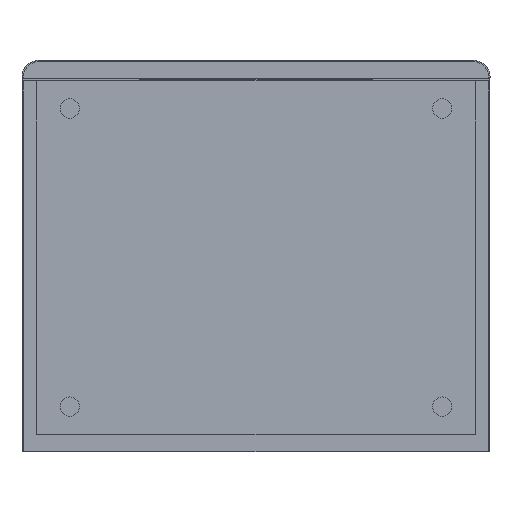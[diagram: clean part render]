
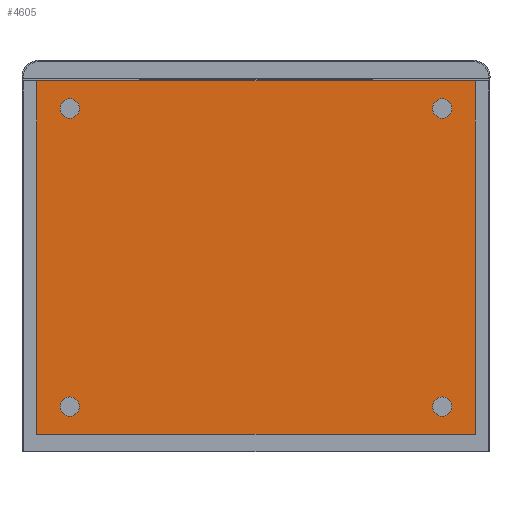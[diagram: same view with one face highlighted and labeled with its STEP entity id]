
A CAD part, front view. The second image highlights one B-rep face of the part: STEP entity #4605.
In plain terms, the highlighted planar face has unit normal (0, -1, 0).
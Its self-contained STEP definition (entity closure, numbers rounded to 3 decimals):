
#11 = CIRCLE ( 'NONE', #1059, 12.5 ) ;
#168 = VERTEX_POINT ( 'NONE', #8002 ) ;
#197 = VERTEX_POINT ( 'NONE', #2860 ) ;
#272 = DIRECTION ( 'NONE',  ( 0., 0., 1. ) ) ;
#367 = DIRECTION ( 'NONE',  ( 0., 0., -1. ) ) ;
#639 = ORIENTED_EDGE ( 'NONE', *, *, #6424, .F. ) ;
#715 = ORIENTED_EDGE ( 'NONE', *, *, #1990, .T. ) ;
#1025 = AXIS2_PLACEMENT_3D ( 'NONE', #5775, #2635, #5158 ) ;
#1059 = AXIS2_PLACEMENT_3D ( 'NONE', #5457, #4272, #7286 ) ;
#1183 = CIRCLE ( 'NONE', #7457, 12.5 ) ;
#1383 = FACE_BOUND ( 'NONE', #4209, .T. ) ;
#1669 = ORIENTED_EDGE ( 'NONE', *, *, #3028, .T. ) ;
#1736 = EDGE_CURVE ( 'NONE', #168, #5541, #3900, .T. ) ;
#1853 = EDGE_CURVE ( 'NONE', #197, #3144, #2733, .T. ) ;
#1893 = EDGE_CURVE ( 'NONE', #5541, #168, #11, .T. ) ;
#1907 = CARTESIAN_POINT ( 'NONE',  ( -282.5, -211.75, 238.75 ) ) ;
#1990 = EDGE_CURVE ( 'NONE', #3144, #2121, #5971, .T. ) ;
#2052 = AXIS2_PLACEMENT_3D ( 'NONE', #2850, #7315, #367 ) ;
#2066 = VERTEX_POINT ( 'NONE', #3603 ) ;
#2121 = VERTEX_POINT ( 'NONE', #5485 ) ;
#2145 = LINE ( 'NONE', #7022, #3521 ) ;
#2635 = DIRECTION ( 'NONE',  ( 0., -1., 0. ) ) ;
#2733 = LINE ( 'NONE', #4639, #7449 ) ;
#2850 = CARTESIAN_POINT ( 'NONE',  ( -240., -211.75, -180.75 ) ) ;
#2860 = CARTESIAN_POINT ( 'NONE',  ( 282.5, -211.75, 238.75 ) ) ;
#3028 = EDGE_CURVE ( 'NONE', #2121, #4188, #6054, .T. ) ;
#3144 = VERTEX_POINT ( 'NONE', #1907 ) ;
#3261 = PLANE ( 'NONE',  #1025 ) ;
#3317 = CARTESIAN_POINT ( 'NONE',  ( 240., -211.75, -180.75 ) ) ;
#3454 = CARTESIAN_POINT ( 'NONE',  ( 240., -211.75, -168.25 ) ) ;
#3519 = CARTESIAN_POINT ( 'NONE',  ( -240., -211.75, -180.75 ) ) ;
#3521 = VECTOR ( 'NONE', #272, 1000. ) ;
#3603 = CARTESIAN_POINT ( 'NONE',  ( -240., -211.75, -168.25 ) ) ;
#3900 = CIRCLE ( 'NONE', #7422, 12.5 ) ;
#4188 = VERTEX_POINT ( 'NONE', #4323 ) ;
#4209 = EDGE_LOOP ( 'NONE', ( #4774, #639 ) ) ;
#4272 = DIRECTION ( 'NONE',  ( 0., -1., 0. ) ) ;
#4323 = CARTESIAN_POINT ( 'NONE',  ( 282.5, -211.75, -216.25 ) ) ;
#4519 = EDGE_LOOP ( 'NONE', ( #715, #1669, #8048, #4718 ) ) ;
#4541 = DIRECTION ( 'NONE',  ( 0., 0., -1. ) ) ;
#4605 = ADVANCED_FACE ( 'NONE', ( #6996, #1383, #6377 ), #3261, .T. ) ;
#4639 = CARTESIAN_POINT ( 'NONE',  ( -282.5, -211.75, 238.75 ) ) ;
#4673 = EDGE_CURVE ( 'NONE', #2066, #5673, #5593, .T. ) ;
#4718 = ORIENTED_EDGE ( 'NONE', *, *, #1853, .T. ) ;
#4763 = DIRECTION ( 'NONE',  ( 0., -1., 0. ) ) ;
#4774 = ORIENTED_EDGE ( 'NONE', *, *, #4673, .F. ) ;
#4810 = CARTESIAN_POINT ( 'NONE',  ( -240., -211.75, -193.25 ) ) ;
#5158 = DIRECTION ( 'NONE',  ( 0., 0., -1. ) ) ;
#5284 = CARTESIAN_POINT ( 'NONE',  ( -282.5, -211.75, 238.75 ) ) ;
#5286 = DIRECTION ( 'NONE',  ( 0., 0., -1. ) ) ;
#5369 = DIRECTION ( 'NONE',  ( 0., -1., 0. ) ) ;
#5375 = DIRECTION ( 'NONE',  ( 0., 0., -1. ) ) ;
#5403 = DIRECTION ( 'NONE',  ( 1., 0., 0. ) ) ;
#5457 = CARTESIAN_POINT ( 'NONE',  ( 240., -211.75, -180.75 ) ) ;
#5485 = CARTESIAN_POINT ( 'NONE',  ( -282.5, -211.75, -216.25 ) ) ;
#5541 = VERTEX_POINT ( 'NONE', #3454 ) ;
#5593 = CIRCLE ( 'NONE', #2052, 12.5 ) ;
#5673 = VERTEX_POINT ( 'NONE', #4810 ) ;
#5756 = VECTOR ( 'NONE', #4541, 1000. ) ;
#5775 = CARTESIAN_POINT ( 'NONE',  ( 0., -211.75, 0. ) ) ;
#5887 = CARTESIAN_POINT ( 'NONE',  ( -282.5, -211.75, -216.25 ) ) ;
#5971 = LINE ( 'NONE', #5284, #5756 ) ;
#6054 = LINE ( 'NONE', #5887, #6194 ) ;
#6065 = DIRECTION ( 'NONE',  ( -1., 0., 0. ) ) ;
#6194 = VECTOR ( 'NONE', #5403, 1000. ) ;
#6377 = FACE_OUTER_BOUND ( 'NONE', #4519, .T. ) ;
#6424 = EDGE_CURVE ( 'NONE', #5673, #2066, #1183, .T. ) ;
#6820 = EDGE_CURVE ( 'NONE', #4188, #197, #2145, .T. ) ;
#6996 = FACE_BOUND ( 'NONE', #7616, .T. ) ;
#7022 = CARTESIAN_POINT ( 'NONE',  ( 282.5, -211.75, 238.75 ) ) ;
#7286 = DIRECTION ( 'NONE',  ( 0., 0., -1. ) ) ;
#7315 = DIRECTION ( 'NONE',  ( 0., -1., 0. ) ) ;
#7318 = ORIENTED_EDGE ( 'NONE', *, *, #1893, .F. ) ;
#7422 = AXIS2_PLACEMENT_3D ( 'NONE', #3317, #4763, #5375 ) ;
#7443 = ORIENTED_EDGE ( 'NONE', *, *, #1736, .F. ) ;
#7449 = VECTOR ( 'NONE', #6065, 1000. ) ;
#7457 = AXIS2_PLACEMENT_3D ( 'NONE', #3519, #5369, #5286 ) ;
#7616 = EDGE_LOOP ( 'NONE', ( #7318, #7443 ) ) ;
#8002 = CARTESIAN_POINT ( 'NONE',  ( 240., -211.75, -193.25 ) ) ;
#8048 = ORIENTED_EDGE ( 'NONE', *, *, #6820, .T. ) ;
